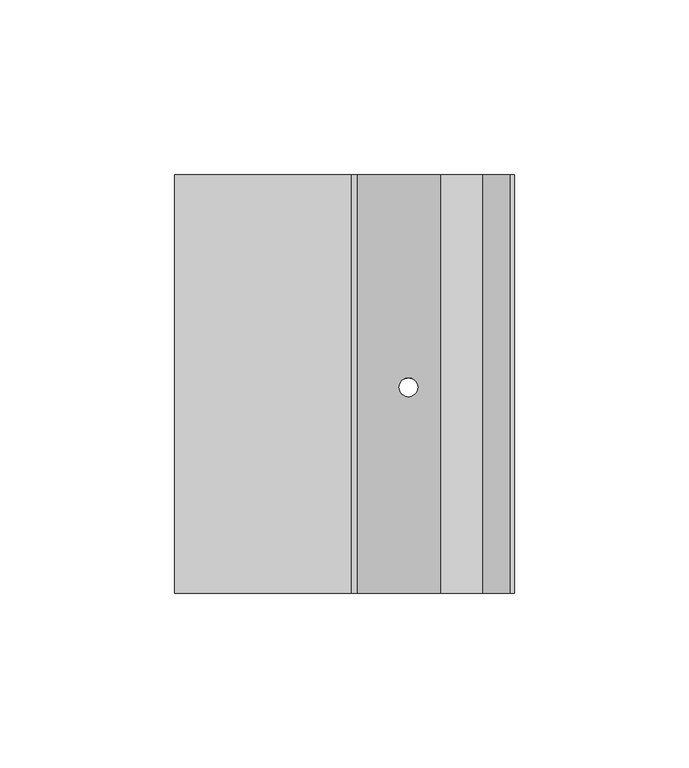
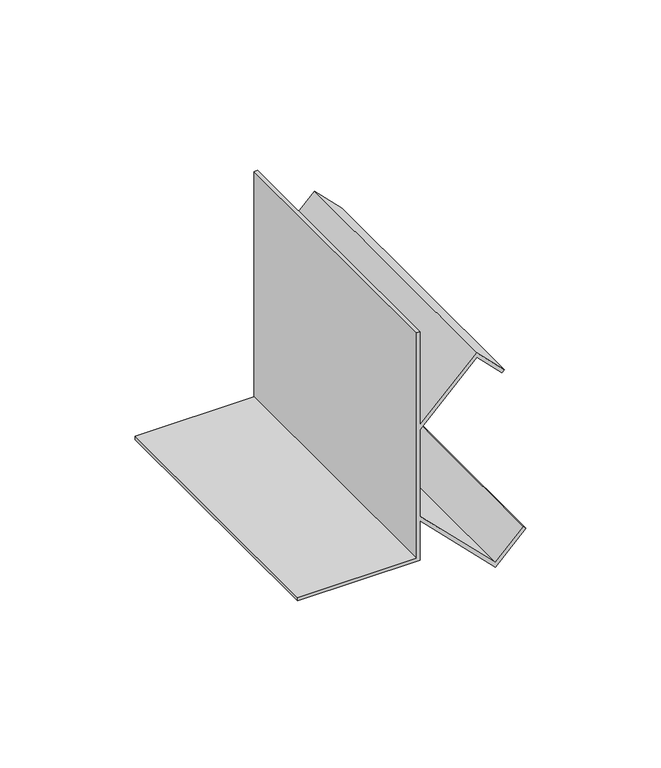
"""IFC4 building model written with IfcOpenShell, lengths in millimetres: proxy geometry, Mechanical Fittings & Accessories1 : Mechanical Fittings & Accessories."""

from ifc_helpers import new_model, si_unit, frame, origin, place, context, project, spatial, polyline, ellipse_curve, source, transform, mapped, element, save
from ifc_brep_helpers import plane_surface, revolved_surface, advanced_brep


def generic_models_ea6e69d7(model_context):
    return source(origin(), model_context, "Body", "AdvancedBrep", [
        advanced_brep(
        [(-10977.7433312, 2079.4963986, 4114.8), (-11028.5433312, 2079.4963986, 4114.8), (-11028.5433312, 2079.4963986, 4113.3117188), (-10976.25505, 2079.4963986, 4113.3117188), (-10976.25505, 2079.4963986, 4131.1383509), (-10944.145289, 2079.4963986, 4099.0285899), (-10931.1663177, 2079.4963986, 4112.0075612), (-10932.2186914, 2079.4963986, 4113.059935), (-10944.145289, 2079.4963986, 4101.1333374), (-10976.25505, 2079.4963986, 4133.2430984), (-10976.25505, 2079.4963986, 4172.2761118), (-10952.082789, 2079.4963986, 4196.4483729), (-10941.3468164, 2079.4963986, 4185.7124003), (-10940.2944427, 2079.4963986, 4186.7647741), (-10952.082789, 2079.4963986, 4198.5531204), (-10976.25505, 2079.4963986, 4174.3808594), (-10976.25505, 2079.4963986, 4216.4), (-10977.7433312, 2079.4963986, 4216.4), (-10977.7433312, 2199.4645457, 4114.8), (-10977.7433312, 2199.4645457, 4216.4), (-10976.25505, 2199.4645457, 4216.4), (-10976.25505, 2199.4645457, 4174.3808594), (-10952.082789, 2199.4645457, 4198.5531204), (-10940.2944427, 2199.4645457, 4186.7647741), (-10941.3468164, 2199.4645457, 4185.7124003), (-10952.082789, 2199.4645457, 4196.4483729), (-10976.25505, 2199.4645457, 4172.2761118), (-10976.25505, 2199.4645457, 4133.2430984), (-10944.145289, 2199.4645457, 4101.1333374), (-10932.2186914, 2199.4645457, 4113.059935), (-10931.1663177, 2199.4645457, 4112.0075612), (-10944.145289, 2199.4645457, 4099.0285899), (-10976.25505, 2199.4645457, 4131.1383509), (-10976.25505, 2199.4645457, 4113.3117188), (-11028.5433312, 2199.4645457, 4113.3117188), (-11028.5433312, 2199.4645457, 4114.8), (-10964.1411396, 2138.5191481, 4119.0244406), (-10958.8017728, 2138.5191481, 4113.6850737), (-10958.8017728, 2138.5191481, 4115.7898213), (-10964.1411396, 2138.5191481, 4121.1291881), (-10964.1411396, 2138.5191481, 4184.3900222), (-10958.8017728, 2138.5191481, 4189.729389), (-10958.8017728, 2138.5191481, 4191.8341365), (-10964.1411396, 2138.5191481, 4186.4947697)],
        [
            (0, 1),
            (1, 2),
            (2, 3),
            (3, 4),
            (4, 5),
            (5, 6),
            (6, 7),
            (7, 8),
            (8, 9),
            (9, 10),
            (10, 11),
            (11, 12),
            (12, 13),
            (13, 14),
            (14, 15),
            (15, 16),
            (16, 17),
            (17, 0),
            (18, 19),
            (19, 20),
            (20, 21),
            (21, 22),
            (22, 23),
            (23, 24),
            (24, 25),
            (25, 26),
            (26, 27),
            (27, 28),
            (28, 29),
            (29, 30),
            (30, 31),
            (31, 32),
            (32, 33),
            (33, 34),
            (34, 35),
            (35, 18),
            (0, 18),
            (35, 1),
            (34, 2),
            (33, 3),
            (32, 4),
            (31, 5),
            (36, 37, ellipse_curve(frame((-10961.4714562, 2138.5191481, 4116.3547571), z_axis=(0.7071067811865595, 0.0, 0.7071067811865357), x_axis=(-0.7071067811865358, 0.0, 0.7071067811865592)), 3.7755025, 2.6696834)),
            (37, 36, ellipse_curve(frame((-10961.4714562, 2138.5191481, 4116.3547571), z_axis=(0.7071067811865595, 0.0, 0.7071067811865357), x_axis=(-0.7071067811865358, 0.0, 0.7071067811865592)), 3.7755025, 2.6696834)),
            (30, 6),
            (29, 7),
            (28, 8),
            (27, 9),
            (38, 39, ellipse_curve(frame((-10961.4714562, 2138.5191481, 4118.4595047), z_axis=(-0.7071067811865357, 0.0, -0.7071067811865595), x_axis=(-0.7071067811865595, 0.0, 0.7071067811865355)), 3.7755025, 2.6696834)),
            (39, 38, ellipse_curve(frame((-10961.4714562, 2138.5191481, 4118.4595047), z_axis=(-0.7071067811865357, 0.0, -0.7071067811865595), x_axis=(-0.7071067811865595, 0.0, 0.7071067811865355)), 3.7755025, 2.6696834)),
            (26, 10),
            (25, 11),
            (40, 41, ellipse_curve(frame((-10961.4714562, 2138.5191481, 4187.0597056), z_axis=(-0.7071067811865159, 0.0, 0.7071067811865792), x_axis=(0.7071067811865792, 0.0, 0.7071067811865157)), 3.7755025, 2.6696834)),
            (41, 40, ellipse_curve(frame((-10961.4714562, 2138.5191481, 4187.0597056), z_axis=(-0.7071067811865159, 0.0, 0.7071067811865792), x_axis=(0.7071067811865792, 0.0, 0.7071067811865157)), 3.7755025, 2.6696834)),
            (24, 12),
            (23, 13),
            (22, 14),
            (21, 15),
            (42, 43, ellipse_curve(frame((-10961.4714562, 2138.5191481, 4189.1644531), z_axis=(0.7071067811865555, 0.0, -0.7071067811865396), x_axis=(0.7071067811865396, 0.0, 0.7071067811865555)), 3.7755025, 2.6696834)),
            (43, 42, ellipse_curve(frame((-10961.4714562, 2138.5191481, 4189.1644531), z_axis=(0.7071067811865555, 0.0, -0.7071067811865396), x_axis=(0.7071067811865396, 0.0, 0.7071067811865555)), 3.7755025, 2.6696834)),
            (20, 16),
            (19, 17),
            (36, 39),
            (38, 37),
            (40, 43),
            (42, 41),
        ],
        [
            plane_surface(frame((-11028.5433312, 2079.4963986, 4114.8), z_axis=(0.0, -1.0, 0.0), x_axis=(-1.0, 0.0, 0.0))),
            plane_surface(frame((-11028.5433312, 2199.4645457, 4114.8), z_axis=(0.0, 1.0, 0.0), x_axis=(1.0, 0.0, 0.0))),
            plane_surface(frame((-10977.7433312, 2079.4963986, 4114.8), z_axis=(0.0, 0.0, 1.0), x_axis=(0.0, 1.0, 0.0))),
            plane_surface(frame((-11028.5433312, 2079.4963986, 4114.8), z_axis=(-1.0, 0.0, 0.0), x_axis=(0.0, 1.0, 0.0))),
            plane_surface(frame((-11028.5433312, 2079.4963986, 4113.3117188), z_axis=(0.0, 0.0, -1.0), x_axis=(0.0, 1.0, 0.0))),
            plane_surface(frame((-10976.25505, 2079.4963986, 4113.3117188), z_axis=(1.0, 0.0, 0.0), x_axis=(0.0, 1.0, 0.0))),
            plane_surface(frame((-10976.25505, 2079.4963986, 4131.1383509), z_axis=(-0.7071067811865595, 0.0, -0.7071067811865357), x_axis=(0.0, 1.0, 0.0))),
            plane_surface(frame((-10944.145289, 2079.4963986, 4099.0285899), z_axis=(0.7071067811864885, 0.0, -0.7071067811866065), x_axis=(0.0, 1.0, 0.0))),
            plane_surface(frame((-10931.1663177, 2079.4963986, 4112.0075612), z_axis=(0.7071067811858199, 0.0, 0.7071067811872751), x_axis=(0.0, 1.0, 0.0))),
            plane_surface(frame((-10932.2186914, 2079.4963986, 4113.059935), z_axis=(-0.7071067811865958, 0.0, 0.7071067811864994), x_axis=(0.0, 1.0, 0.0))),
            plane_surface(frame((-10944.145289, 2079.4963986, 4101.1333374), z_axis=(0.7071067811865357, 0.0, 0.7071067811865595), x_axis=(0.0, 1.0, 0.0))),
            plane_surface(frame((-10976.25505, 2079.4963986, 4133.2430984), z_axis=(1.0, 0.0, 0.0), x_axis=(0.0, 1.0, 0.0))),
            plane_surface(frame((-10976.25505, 2079.4963986, 4172.2761118), z_axis=(0.7071067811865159, 0.0, -0.7071067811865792), x_axis=(0.0, 1.0, 0.0))),
            plane_surface(frame((-10952.082789, 2079.4963986, 4196.4483729), z_axis=(-0.7071067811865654, 0.0, -0.7071067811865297), x_axis=(0.0, 1.0, 0.0))),
            plane_surface(frame((-10941.3468164, 2079.4963986, 4185.7124003), z_axis=(0.7071067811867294, 0.0, -0.7071067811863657), x_axis=(0.0, 1.0, 0.0))),
            plane_surface(frame((-10940.2944427, 2079.4963986, 4186.7647741), z_axis=(0.707106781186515, 0.0, 0.70710678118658), x_axis=(0.0, 1.0, 0.0))),
            plane_surface(frame((-10952.082789, 2079.4963986, 4198.5531204), z_axis=(-0.7071067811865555, 0.0, 0.7071067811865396), x_axis=(0.0, 1.0, 0.0))),
            plane_surface(frame((-10976.25505, 2079.4963986, 4174.3808594), z_axis=(1.0, 0.0, 0.0), x_axis=(0.0, 1.0, 0.0))),
            plane_surface(frame((-10976.25505, 2079.4963986, 4216.4), z_axis=(0.0, 0.0, 1.0), x_axis=(0.0, 1.0, 0.0))),
            plane_surface(frame((-10977.7433312, 2079.4963986, 4216.4), z_axis=(-1.0, 0.0, 0.0), x_axis=(0.0, 1.0, 0.0))),
            revolved_surface(polyline([(-10958.801772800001, 2138.5191481, 4121.129188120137), (-10958.801772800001, 2138.5191481, 4113.685073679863)]), (-10961.4714562, 2138.5191481, 4097.2034211), (0.0, 0.0, 1.0)),
            revolved_surface(polyline([(-10958.801772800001, 2138.5191481, 4191.834136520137), (-10958.801772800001, 2138.5191481, 4184.390022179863)]), (-10961.4714562, 2138.5191481, 4097.2034211), (0.0, 0.0, 1.0)),
        ],
        [
            (0, [[1, 2, 3, 4, 5, 6, 7, 8, 9, 10, 11, 12, 13, 14, 15, 16, 17, 18]]),
            (1, [[19, 20, 21, 22, 23, 24, 25, 26, 27, 28, 29, 30, 31, 32, 33, 34, 35, 36]]),
            (2, [[-1, 37, -36, 38]]),
            (3, [[-2, -38, -35, 39]]),
            (4, [[-3, -39, -34, 40]]),
            (5, [[-4, -40, -33, 41]]),
            (6, [[-5, -41, -32, 42], [43, 44]]),
            (7, [[-6, -42, -31, 45]]),
            (8, [[-7, -45, -30, 46]]),
            (9, [[-8, -46, -29, 47]]),
            (10, [[-9, -47, -28, 48], [49, 50]]),
            (11, [[-10, -48, -27, 51]]),
            (12, [[-11, -51, -26, 52], [53, 54]]),
            (13, [[-12, -52, -25, 55]]),
            (14, [[-13, -55, -24, 56]]),
            (15, [[-14, -56, -23, 57]]),
            (16, [[-15, -57, -22, 58], [59, 60]]),
            (17, [[-16, -58, -21, 61]]),
            (18, [[-17, -61, -20, 62]]),
            (19, [[-18, -62, -19, -37]]),
            (20, [[63, -49, 64, -43]]),
            (21, [[65, -59, 66, -53]]),
            (20, [[-63, -44, -64, -50]]),
            (21, [[-65, -54, -66, -60]]),
        ],
    ),
    ])


if __name__ == "__main__":
    model = new_model("IFC4")
    model_context = context("Model", 3, world=origin())
    ifc_project = project(units=[si_unit("LENGTHUNIT", "METRE", prefix="MILLI")], contexts=[model_context])
    site = spatial("IfcSite", under=ifc_project)
    building = spatial("IfcBuilding", under=site)
    placement = place(None, origin())
    generic_models_shape = generic_models_ea6e69d7(model_context)
    element("IfcBuildingElementProxy", 1, Name="Mechanical Fittings & Accessories1 : Mechanical Fittings & Accessories", ObjectType="Mechanical Fittings & Accessories1 : Mechanical Fittings & Accessories", at=placement, inside=building, context=model_context, shape_type="MappedRepresentation", body=[
        mapped(generic_models_shape, transform((0.0, 0.0, 0.0), x_axis=(1.0, 0.0, 0.0), y_axis=(0.0, 1.0, 0.0), z_axis=(0.0, 0.0, 1.0))),
    ])
    save(model, "model.ifc")
